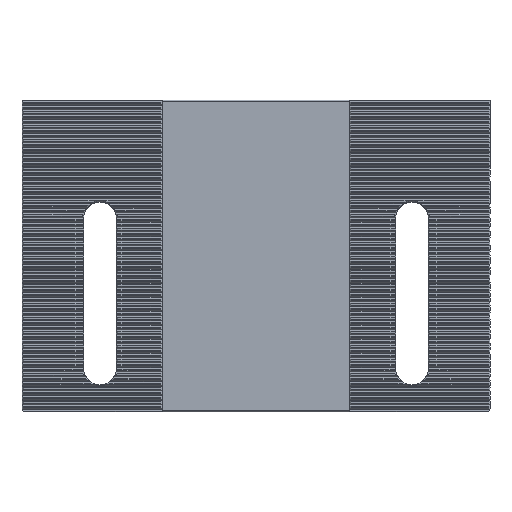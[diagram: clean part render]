
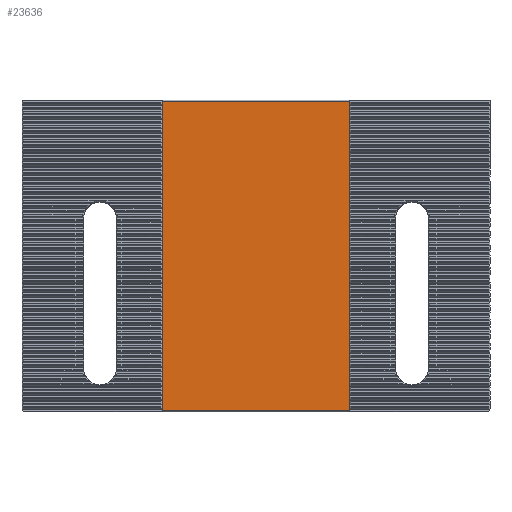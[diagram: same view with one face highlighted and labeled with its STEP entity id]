
A CAD part, front view. The second image highlights one B-rep face of the part: STEP entity #23636.
In plain terms, the highlighted planar face has unit normal (0, -1, 0).
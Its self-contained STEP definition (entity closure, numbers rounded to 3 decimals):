
#281 = FACE_OUTER_BOUND ( 'NONE', #37804, .T. ) ;
#341 = CARTESIAN_POINT ( 'NONE',  ( -30.062, 4., -0.5 ) ) ;
#1352 = DIRECTION ( 'NONE',  ( 0., 1., 0. ) ) ;
#4171 = DIRECTION ( 'NONE',  ( 0., 0., 1. ) ) ;
#4821 = DIRECTION ( 'NONE',  ( 0., 0., 1. ) ) ;
#5039 = LINE ( 'NONE', #18215, #23027 ) ;
#5305 = CARTESIAN_POINT ( 'NONE',  ( -30.063, 4., -99.5 ) ) ;
#5458 = EDGE_CURVE ( 'NONE', #23100, #19864, #26404, .T. ) ;
#6808 = AXIS2_PLACEMENT_3D ( 'NONE', #40616, #1352, #4171 ) ;
#8865 = VERTEX_POINT ( 'NONE', #12539 ) ;
#9439 = DIRECTION ( 'NONE',  ( 0., 0., 1. ) ) ;
#9750 = EDGE_CURVE ( 'NONE', #8865, #23100, #5039, .T. ) ;
#12539 = CARTESIAN_POINT ( 'NONE',  ( 30.063, 4., -99.5 ) ) ;
#12550 = CARTESIAN_POINT ( 'NONE',  ( 30.063, 4., -0.5 ) ) ;
#13645 = CARTESIAN_POINT ( 'NONE',  ( -30.063, 4., -99.5 ) ) ;
#16466 = CARTESIAN_POINT ( 'NONE',  ( -30.062, 4., -0.5 ) ) ;
#16612 = VECTOR ( 'NONE', #9439, 1000. ) ;
#17070 = ORIENTED_EDGE ( 'NONE', *, *, #25557, .T. ) ;
#17499 = ORIENTED_EDGE ( 'NONE', *, *, #19325, .F. ) ;
#18215 = CARTESIAN_POINT ( 'NONE',  ( 30.063, 4., -100. ) ) ;
#19325 = EDGE_CURVE ( 'NONE', #23572, #19864, #32765, .T. ) ;
#19864 = VERTEX_POINT ( 'NONE', #341 ) ;
#23027 = VECTOR ( 'NONE', #4821, 1000. ) ;
#23100 = VERTEX_POINT ( 'NONE', #12550 ) ;
#23572 = VERTEX_POINT ( 'NONE', #13645 ) ;
#23636 = ADVANCED_FACE ( 'NONE', ( #281 ), #30070, .F. ) ;
#25102 = ORIENTED_EDGE ( 'NONE', *, *, #9750, .T. ) ;
#25557 = EDGE_CURVE ( 'NONE', #23572, #8865, #31439, .T. ) ;
#26404 = LINE ( 'NONE', #16466, #34870 ) ;
#30070 = PLANE ( 'NONE',  #6808 ) ;
#31439 = LINE ( 'NONE', #5305, #32312 ) ;
#32312 = VECTOR ( 'NONE', #38522, 1000. ) ;
#32765 = LINE ( 'NONE', #39018, #16612 ) ;
#34870 = VECTOR ( 'NONE', #36313, 1000. ) ;
#36313 = DIRECTION ( 'NONE',  ( -1., 0., 0. ) ) ;
#37804 = EDGE_LOOP ( 'NONE', ( #17499, #17070, #25102, #39030 ) ) ;
#38522 = DIRECTION ( 'NONE',  ( 1., 0., 0. ) ) ;
#39018 = CARTESIAN_POINT ( 'NONE',  ( -30.062, 4., -100. ) ) ;
#39030 = ORIENTED_EDGE ( 'NONE', *, *, #5458, .T. ) ;
#40616 = CARTESIAN_POINT ( 'NONE',  ( -30.062, 4., -100. ) ) ;
